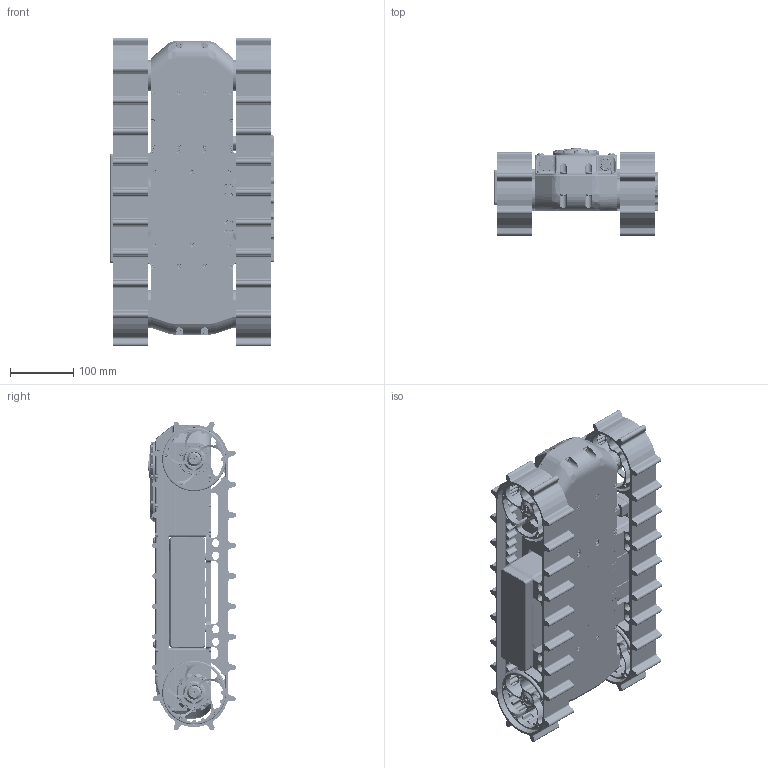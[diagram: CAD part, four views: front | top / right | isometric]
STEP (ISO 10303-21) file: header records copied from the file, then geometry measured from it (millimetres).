
FILE_DESCRIPTION (( 'STEP AP203' ), '1' );
FILE_NAME ('Áàçà áåç ôëèïïåðîâ.STEP', '2015-08-19T13:25:41', ( '' ), ( '' ), 'SwSTEP 2.0', 'SolidWorks 2015', '' );
FILE_SCHEMA (( 'CONFIG_CONTROL_DESIGN' ));
Length unit declared in the file: millimetre
Products named in the file (1): Áàçà áåç ôëèïïåðîâ
Bounding box: 259 x 139.09 x 487.02 mm (x, y, z)
Volume: 7774544.8 mm3; surface area: 1115013.3 mm2
Topology: 141 solids, 259 shells, 9643 faces, 23252 edges, 14147 vertices
Faces by surface type: plane 4069, cylinder 3264, cone 1485, torus 730, bspline 91, sphere 4
Entity records: 291578 total; most frequent: CARTESIAN_POINT 63119, DIRECTION 50685, ORIENTED_EDGE 45744, EDGE_CURVE 22872, AXIS2_PLACEMENT_3D 19523, VERTEX_POINT 14147, VECTOR 11639, LINE 11639
